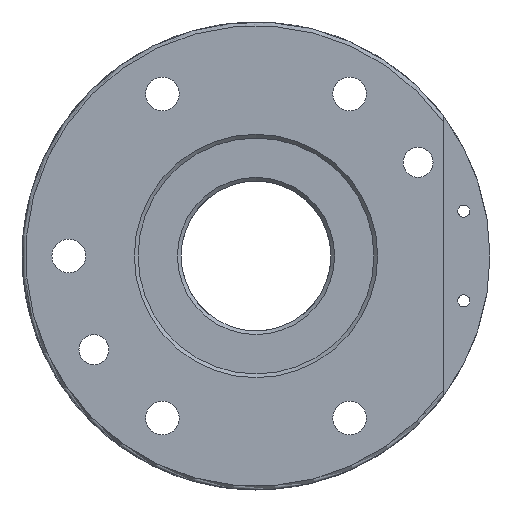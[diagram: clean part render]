
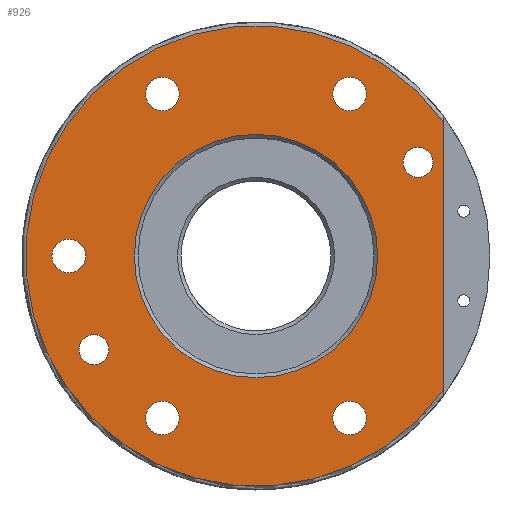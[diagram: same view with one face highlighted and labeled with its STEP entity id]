
A CAD part, front view. The second image highlights one B-rep face of the part: STEP entity #926.
In plain terms, the highlighted planar face has unit normal (0, -1, 0).
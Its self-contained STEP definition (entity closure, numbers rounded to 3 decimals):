
#45=FACE_BOUND('',#223,.T.);
#46=FACE_BOUND('',#224,.T.);
#47=FACE_BOUND('',#225,.T.);
#48=FACE_BOUND('',#226,.T.);
#49=FACE_BOUND('',#227,.T.);
#50=FACE_BOUND('',#228,.T.);
#51=FACE_BOUND('',#229,.T.);
#52=FACE_BOUND('',#230,.T.);
#71=LINE('',#1434,#114);
#114=VECTOR('',#1124,10.);
#158=PLANE('',#995);
#175=FACE_OUTER_BOUND('',#222,.T.);
#222=EDGE_LOOP('',(#616,#617));
#223=EDGE_LOOP('',(#618));
#224=EDGE_LOOP('',(#619));
#225=EDGE_LOOP('',(#620));
#226=EDGE_LOOP('',(#621));
#227=EDGE_LOOP('',(#622));
#228=EDGE_LOOP('',(#623));
#229=EDGE_LOOP('',(#624));
#230=EDGE_LOOP('',(#625));
#294=CIRCLE('',#993,61.5);
#295=CIRCLE('',#996,32.5);
#296=CIRCLE('',#997,4.5);
#297=CIRCLE('',#998,4.5);
#298=CIRCLE('',#999,4.5);
#299=CIRCLE('',#1000,4.5);
#300=CIRCLE('',#1001,4.5);
#301=CIRCLE('',#1002,4.);
#302=CIRCLE('',#1003,4.);
#379=VERTEX_POINT('',#1407);
#382=VERTEX_POINT('',#1421);
#385=VERTEX_POINT('',#1441);
#386=VERTEX_POINT('',#1443);
#387=VERTEX_POINT('',#1445);
#388=VERTEX_POINT('',#1447);
#389=VERTEX_POINT('',#1449);
#390=VERTEX_POINT('',#1451);
#391=VERTEX_POINT('',#1453);
#392=VERTEX_POINT('',#1455);
#476=EDGE_CURVE('',#382,#379,#294,.T.);
#477=EDGE_CURVE('',#382,#379,#71,.T.);
#481=EDGE_CURVE('',#385,#385,#295,.T.);
#482=EDGE_CURVE('',#386,#386,#296,.T.);
#483=EDGE_CURVE('',#387,#387,#297,.T.);
#484=EDGE_CURVE('',#388,#388,#298,.T.);
#485=EDGE_CURVE('',#389,#389,#299,.T.);
#486=EDGE_CURVE('',#390,#390,#300,.T.);
#487=EDGE_CURVE('',#391,#391,#301,.T.);
#488=EDGE_CURVE('',#392,#392,#302,.T.);
#616=ORIENTED_EDGE('',*,*,#476,.F.);
#617=ORIENTED_EDGE('',*,*,#477,.T.);
#618=ORIENTED_EDGE('',*,*,#481,.F.);
#619=ORIENTED_EDGE('',*,*,#482,.T.);
#620=ORIENTED_EDGE('',*,*,#483,.T.);
#621=ORIENTED_EDGE('',*,*,#484,.T.);
#622=ORIENTED_EDGE('',*,*,#485,.T.);
#623=ORIENTED_EDGE('',*,*,#486,.T.);
#624=ORIENTED_EDGE('',*,*,#487,.T.);
#625=ORIENTED_EDGE('',*,*,#488,.T.);
#926=ADVANCED_FACE('',(#175,#45,#46,#47,#48,#49,#50,#51,#52),#158,.T.);
#993=AXIS2_PLACEMENT_3D('',#1432,#1120,#1121);
#995=AXIS2_PLACEMENT_3D('',#1440,#1128,#1129);
#996=AXIS2_PLACEMENT_3D('',#1442,#1130,#1131);
#997=AXIS2_PLACEMENT_3D('',#1444,#1132,#1133);
#998=AXIS2_PLACEMENT_3D('',#1446,#1134,#1135);
#999=AXIS2_PLACEMENT_3D('',#1448,#1136,#1137);
#1000=AXIS2_PLACEMENT_3D('',#1450,#1138,#1139);
#1001=AXIS2_PLACEMENT_3D('',#1452,#1140,#1141);
#1002=AXIS2_PLACEMENT_3D('',#1454,#1142,#1143);
#1003=AXIS2_PLACEMENT_3D('',#1456,#1144,#1145);
#1120=DIRECTION('center_axis',(0.,1.,0.));
#1121=DIRECTION('ref_axis',(-1.,0.,0.));
#1124=DIRECTION('',(0.,0.,1.));
#1128=DIRECTION('center_axis',(0.,-1.,0.));
#1129=DIRECTION('ref_axis',(0.,0.,-1.));
#1130=DIRECTION('center_axis',(0.,-1.,0.));
#1131=DIRECTION('ref_axis',(1.,0.,0.));
#1132=DIRECTION('center_axis',(0.,1.,0.));
#1133=DIRECTION('ref_axis',(1.,0.,0.));
#1134=DIRECTION('center_axis',(0.,1.,0.));
#1135=DIRECTION('ref_axis',(1.,0.,0.));
#1136=DIRECTION('center_axis',(0.,1.,0.));
#1137=DIRECTION('ref_axis',(1.,0.,0.));
#1138=DIRECTION('center_axis',(0.,1.,0.));
#1139=DIRECTION('ref_axis',(1.,0.,0.));
#1140=DIRECTION('center_axis',(0.,1.,0.));
#1141=DIRECTION('ref_axis',(1.,0.,0.));
#1142=DIRECTION('center_axis',(0.,1.,0.));
#1143=DIRECTION('ref_axis',(1.,0.,0.));
#1144=DIRECTION('center_axis',(0.,1.,0.));
#1145=DIRECTION('ref_axis',(1.,0.,0.));
#1407=CARTESIAN_POINT('',(-2.186,-36.408,67.693));
#1421=CARTESIAN_POINT('',(-2.186,-36.408,-3.924));
#1432=CARTESIAN_POINT('Origin',(-52.186,-36.408,31.884));
#1434=CARTESIAN_POINT('',(-2.186,-36.408,50.634));
#1440=CARTESIAN_POINT('Origin',(-99.186,-36.408,31.884));
#1441=CARTESIAN_POINT('',(-84.686,-36.408,31.884));
#1442=CARTESIAN_POINT('Origin',(-52.186,-36.408,31.884));
#1443=CARTESIAN_POINT('',(-31.686,-36.408,-11.417));
#1444=CARTESIAN_POINT('Origin',(-27.186,-36.408,-11.417));
#1445=CARTESIAN_POINT('',(-81.686,-36.408,-11.417));
#1446=CARTESIAN_POINT('Origin',(-77.186,-36.408,-11.417));
#1447=CARTESIAN_POINT('',(-106.686,-36.408,31.884));
#1448=CARTESIAN_POINT('Origin',(-102.186,-36.408,31.884));
#1449=CARTESIAN_POINT('',(-81.686,-36.408,75.185));
#1450=CARTESIAN_POINT('Origin',(-77.186,-36.408,75.185));
#1451=CARTESIAN_POINT('',(-31.686,-36.408,75.185));
#1452=CARTESIAN_POINT('Origin',(-27.186,-36.408,75.185));
#1453=CARTESIAN_POINT('',(-12.885,-36.408,56.884));
#1454=CARTESIAN_POINT('Origin',(-8.885,-36.408,56.884));
#1455=CARTESIAN_POINT('',(-99.487,-36.408,6.884));
#1456=CARTESIAN_POINT('Origin',(-95.487,-36.408,6.884));
